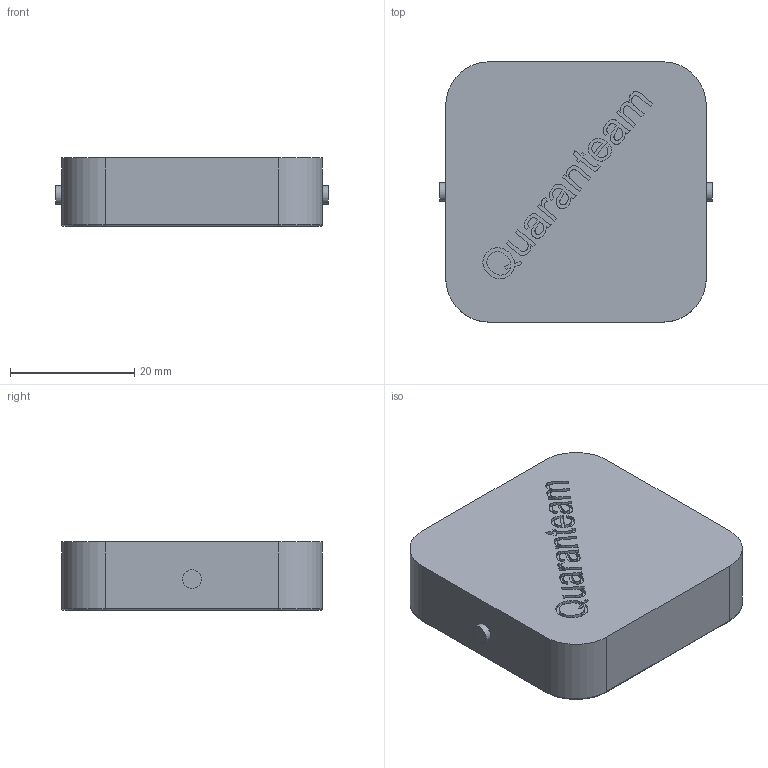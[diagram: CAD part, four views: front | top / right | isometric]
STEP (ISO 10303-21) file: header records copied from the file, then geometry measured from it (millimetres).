
FILE_DESCRIPTION(/* description */ (''),/* implementation_level */ '2;1');
FILE_NAME(/* name */ 'D:/pobrane/pwr/sem 6/konkurs kompozytywni/step/pokrywka.step',/* time_stamp */ '2021-05-10T22:34:06+02:00',/* author */ (''),/* organization */ (''),/* preprocessor_version */ 'ST-DEVELOPER v18.1',/* originating_system */ 'Autodesk Translation Framework v10.6.0.1341',/* authorisation */ '');
FILE_SCHEMA (('AUTOMOTIVE_DESIGN { 1 0 10303 214 3 1 1 }'));
Length unit declared in the file: millimetre
Products named in the file (1): pokrywka
Bounding box: 44 x 42 x 11 mm (x, y, z)
Volume: 3244.2 mm3; surface area: 6769.9 mm2
Topology: 1 solids, 1 shells, 314 faces, 860 edges, 568 vertices
Faces by surface type: bspline 194, plane 92, cylinder 20, torus 8
Full cylindrical faces by diameter (mm): 3 x4
Entity records: 10192 total; most frequent: CARTESIAN_POINT 3489, ORIENTED_EDGE 1720, EDGE_CURVE 860, DIRECTION 762, VERTEX_POINT 568, LINE 424, VECTOR 424, B_SPLINE_CURVE_WITH_KNOTS 388
